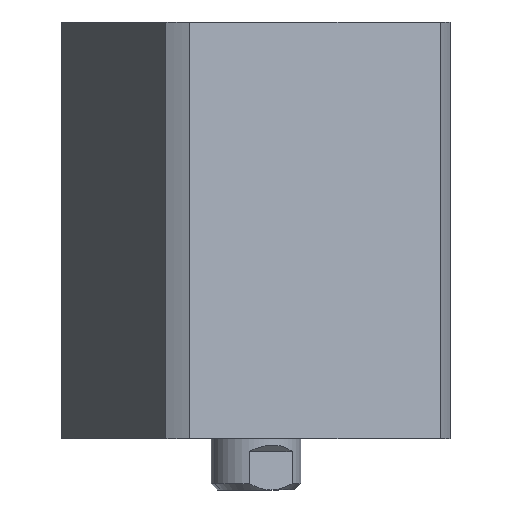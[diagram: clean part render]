
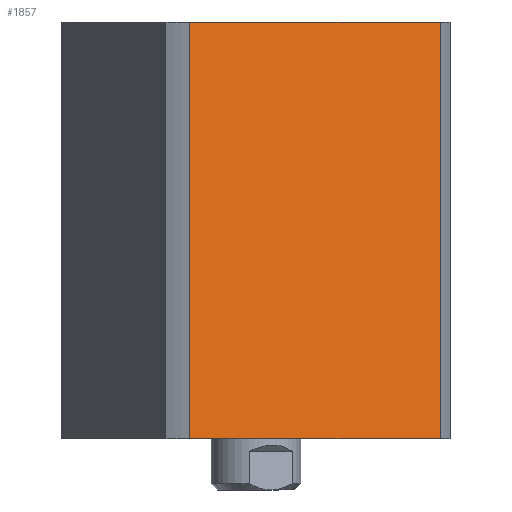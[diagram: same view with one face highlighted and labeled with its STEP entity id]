
A CAD part, left-side view. The second image highlights one B-rep face of the part: STEP entity #1857.
In plain terms, the highlighted planar face has unit normal (-0.924, -0.383, 0) as drawn and (1, 0, 0) by its records, which use the part's own axes.
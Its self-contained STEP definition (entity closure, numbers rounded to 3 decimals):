
#208 = LINE ( 'NONE', #6746, #3338 ) ;
#706 = CARTESIAN_POINT ( 'NONE',  ( 24., 24., 65. ) ) ;
#835 = CARTESIAN_POINT ( 'NONE',  ( 24., -21.166, 0. ) ) ;
#929 = ORIENTED_EDGE ( 'NONE', *, *, #6657, .F. ) ;
#969 = LINE ( 'NONE', #706, #7418 ) ;
#988 = CARTESIAN_POINT ( 'NONE',  ( 24., 24., 0. ) ) ;
#1569 = VERTEX_POINT ( 'NONE', #835 ) ;
#1619 = DIRECTION ( 'NONE',  ( 0., 1., 0. ) ) ;
#1857 = ADVANCED_FACE ( 'NONE', ( #2489 ), #6922, .F. ) ;
#1863 = VERTEX_POINT ( 'NONE', #6284 ) ;
#2489 = FACE_OUTER_BOUND ( 'NONE', #6172, .T. ) ;
#2754 = LINE ( 'NONE', #988, #4221 ) ;
#2769 = ORIENTED_EDGE ( 'NONE', *, *, #6812, .F. ) ;
#3280 = DIRECTION ( 'NONE',  ( 0., 0., -1. ) ) ;
#3338 = VECTOR ( 'NONE', #6116, 1000. ) ;
#3755 = CARTESIAN_POINT ( 'NONE',  ( 24., 24., 65. ) ) ;
#3790 = DIRECTION ( 'NONE',  ( 0., -1., 0. ) ) ;
#3891 = EDGE_CURVE ( 'NONE', #1569, #1863, #2754, .T. ) ;
#4173 = VERTEX_POINT ( 'NONE', #6985 ) ;
#4221 = VECTOR ( 'NONE', #1619, 1000. ) ;
#4419 = VERTEX_POINT ( 'NONE', #7325 ) ;
#4475 = EDGE_CURVE ( 'NONE', #1569, #4173, #208, .T. ) ;
#5091 = DIRECTION ( 'NONE',  ( 0., 1., 0. ) ) ;
#5186 = VECTOR ( 'NONE', #3280, 1000. ) ;
#5633 = ORIENTED_EDGE ( 'NONE', *, *, #4475, .F. ) ;
#5911 = AXIS2_PLACEMENT_3D ( 'NONE', #3755, #7535, #3790 ) ;
#6116 = DIRECTION ( 'NONE',  ( 0., 0., 1. ) ) ;
#6172 = EDGE_LOOP ( 'NONE', ( #5633, #7443, #2769, #929 ) ) ;
#6284 = CARTESIAN_POINT ( 'NONE',  ( 24., 21.166, 0. ) ) ;
#6649 = LINE ( 'NONE', #7039, #5186 ) ;
#6657 = EDGE_CURVE ( 'NONE', #4173, #4419, #969, .T. ) ;
#6746 = CARTESIAN_POINT ( 'NONE',  ( 24., -21.166, -235. ) ) ;
#6812 = EDGE_CURVE ( 'NONE', #4419, #1863, #6649, .T. ) ;
#6922 = PLANE ( 'NONE',  #5911 ) ;
#6985 = CARTESIAN_POINT ( 'NONE',  ( 24., -21.166, 65. ) ) ;
#7039 = CARTESIAN_POINT ( 'NONE',  ( 24., 21.166, -235. ) ) ;
#7325 = CARTESIAN_POINT ( 'NONE',  ( 24., 21.166, 65. ) ) ;
#7418 = VECTOR ( 'NONE', #5091, 1000. ) ;
#7443 = ORIENTED_EDGE ( 'NONE', *, *, #3891, .T. ) ;
#7535 = DIRECTION ( 'NONE',  ( -1., 0., 0. ) ) ;
